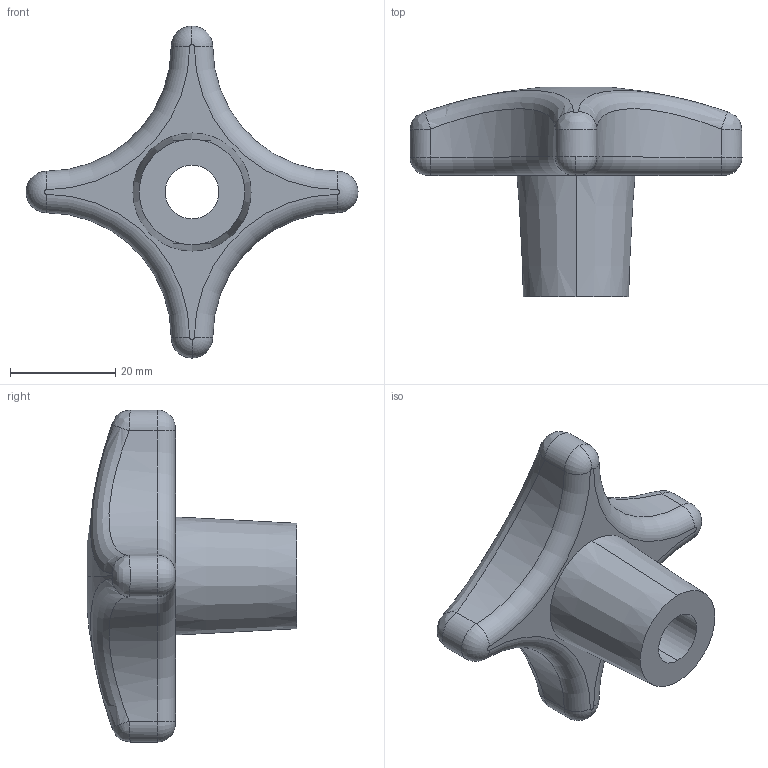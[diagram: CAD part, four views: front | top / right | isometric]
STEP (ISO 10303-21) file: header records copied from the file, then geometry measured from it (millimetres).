
FILE_DESCRIPTION (( 'STEP AP203' ), '1' );
FILE_NAME ('7000.W363.step', '2010-01-29T17:37:53', ( 'Wixroyd' ), ( 'Wixroyd' ), 'SwSTEP 2.0', 'SolidWorks 2009', '' );
FILE_SCHEMA (( 'CONFIG_CONTROL_DESIGN' ));
Length unit declared in the file: millimetre
Products named in the file (1): 7000.W363
Bounding box: 63 x 39.76 x 63 mm (x, y, z)
Volume: 24171.9 mm3; surface area: 7715.5 mm2
Topology: 1 solids, 1 shells, 38 faces, 88 edges, 53 vertices
Faces by surface type: cylinder 13, torus 10, bspline 8, plane 3, cone 2, sphere 2
Entity records: 6632 total; most frequent: CARTESIAN_POINT 5703, DIRECTION 185, ORIENTED_EDGE 176, EDGE_CURVE 88, AXIS2_PLACEMENT_3D 85, CIRCLE 54, VERTEX_POINT 53, EDGE_LOOP 41
